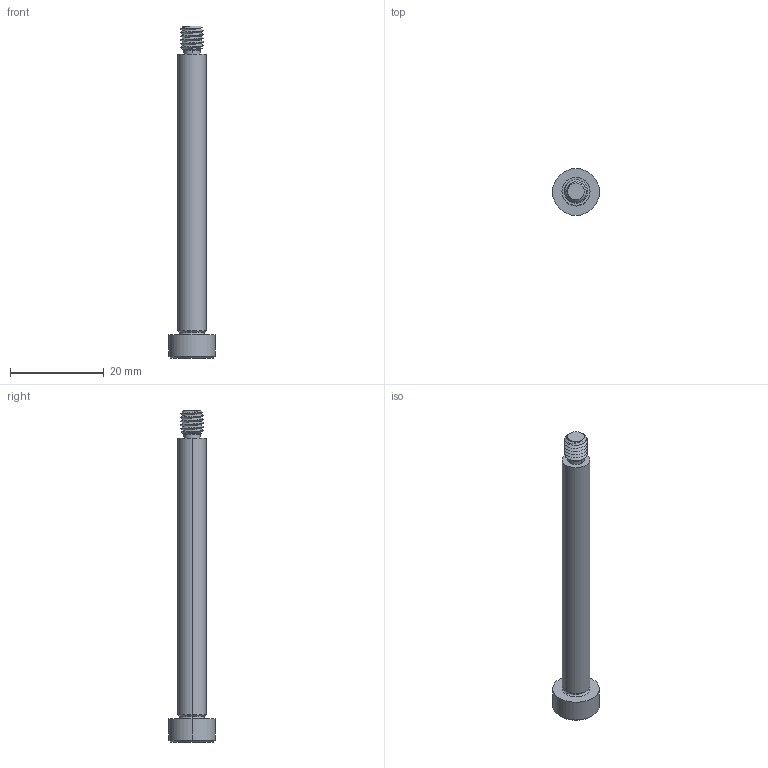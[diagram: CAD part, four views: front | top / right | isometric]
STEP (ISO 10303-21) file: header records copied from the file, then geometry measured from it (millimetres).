
FILE_DESCRIPTION (( 'STEP AP203' ), '1' );
FILE_NAME ('P0130.060-060-B2.step', '2021-11-09T21:30:07', ( '' ), ( '' ), 'SwSTEP 2.0', 'SolidWorks 2019', '' );
FILE_SCHEMA (( 'CONFIG_CONTROL_DESIGN' ));
Length unit declared in the file: millimetre
Products named in the file (1): P0130.060-060-B2
Bounding box: 10 x 10 x 71 mm (x, y, z)
Volume: 2141.6 mm3; surface area: 1618.5 mm2
Topology: 1 solids, 1 shells, 53 faces, 121 edges, 71 vertices
Faces by surface type: cylinder 17, plane 16, cone 14, torus 4, bspline 2
Entity records: 2367 total; most frequent: CARTESIAN_POINT 1186, ORIENTED_EDGE 238, DIRECTION 226, EDGE_CURVE 119, AXIS2_PLACEMENT_3D 92, VERTEX_POINT 71, EDGE_LOOP 56, ADVANCED_FACE 53
